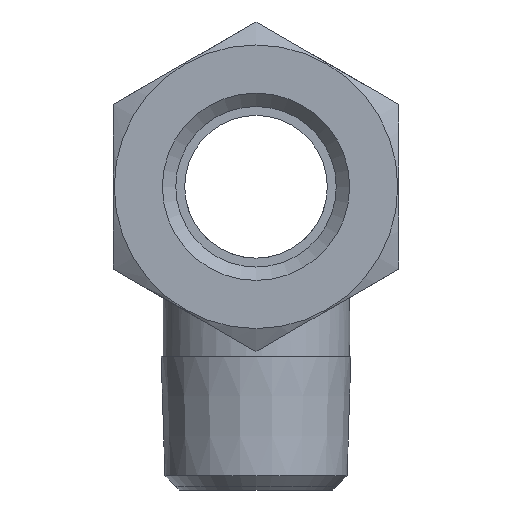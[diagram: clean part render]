
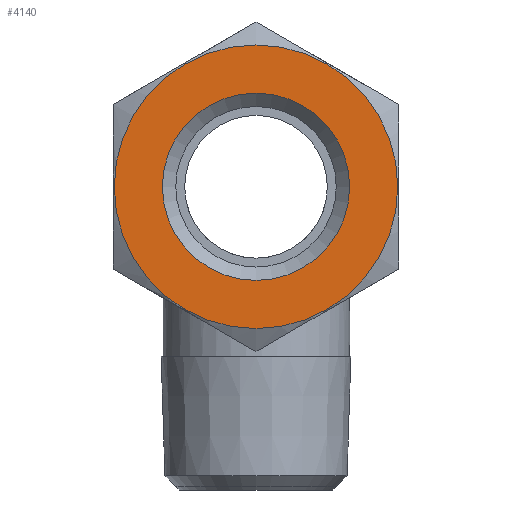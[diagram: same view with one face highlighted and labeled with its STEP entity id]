
A CAD part, left-side view. The second image highlights one B-rep face of the part: STEP entity #4140.
In plain terms, the highlighted planar face has unit normal (-1, 0, 0).
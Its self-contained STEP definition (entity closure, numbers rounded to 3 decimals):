
#4140=ADVANCED_FACE('', (#4150,#4160), #4170, .T.);
#12560=AXIS2_PLACEMENT_3D('Ax2Pl3d', #12570, #12580, #12590);
#12880=AXIS2_PLACEMENT_3D('Ax2Pl3d', #12890, #12900, #12910);
#12920=AXIS2_PLACEMENT_3D('Ax2Pl3d', #12930, #12940, #12950);
#12570=CARTESIAN_POINT('HicPkt', (1.185,23.759,60.125))
;
#51340=CARTESIAN_POINT('', (1.185,7.859,60.125));
#12890=CARTESIAN_POINT('HicPkt', (1.185,23.759,76.025))
;
#12930=CARTESIAN_POINT('HicPkt', (1.185,23.759,60.125))
;
#51380=CARTESIAN_POINT('', (1.185,34.259,60.125));
#52220=CIRCLE('Circle', #12560, 15.9);
#52260=CIRCLE('Circle', #12920, 10.5);
#12580=DIRECTION('Axis', (1.,0.,0.));
#12590=DIRECTION('RefDirection', (0.,-0.,-1.));
#12900=DIRECTION('Axis', (-1.,0.,0.)
);
#12910=DIRECTION('RefDirection', (0.,
0.,-1.));
#12940=DIRECTION('Axis', (1.,0.,0.));
#12950=DIRECTION('RefDirection', (0.,-0.,-1.));
#63390=EDGE_CURVE('', #63400, #63400, #52220, .T.);
#63470=EDGE_CURVE('', #63480, #63480, #52260, .T.);
#69210=EDGE_LOOP('Edge_loop', (#69220));
#69230=EDGE_LOOP('Edge_loop', (#69240));
#4160=FACE_BOUND('', #69230, .T.);
#4150=FACE_OUTER_BOUND('Face_outer_bound', #69210, .T.);
#69220=ORIENTED_EDGE('', *, *, #63390, .F.);
#69240=ORIENTED_EDGE('', *, *, #63470, .T.);
#4170=PLANE('Plane', #12880);
#63400=VERTEX_POINT('', #51340);
#63480=VERTEX_POINT('', #51380);
